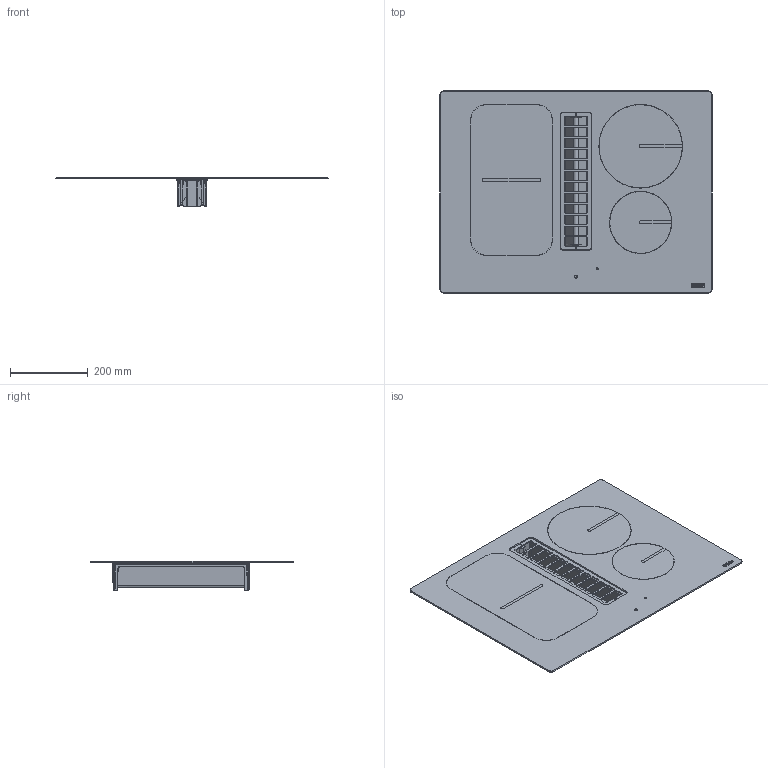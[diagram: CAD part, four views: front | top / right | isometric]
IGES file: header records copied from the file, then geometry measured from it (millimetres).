
Global section: file name: F:\_CONVERSIONE_CAD_2024_2025\03_3D kits new\07_Hoods\LAB\3D001_Hob-Extractors_Smart_FSM-709-HI\3D001_Hob-Extractors_Smart_FSM-709-HI.igs; native system: Rhinoceros ( Jan  9 2024 ); preprocessor: Trout Lake IGES 012 Jan  9 2024; date: 240124.105243; units: millimetre
Bounding box: 700 x 520 x 75.84 mm (x, y, z)
Surface area: 926530.5 mm2 (no closed solid volume)
Topology: 0 solids, 0 shells, 1072 faces, 7251 edges, 7251 vertices
Faces by surface type: bspline 1072
